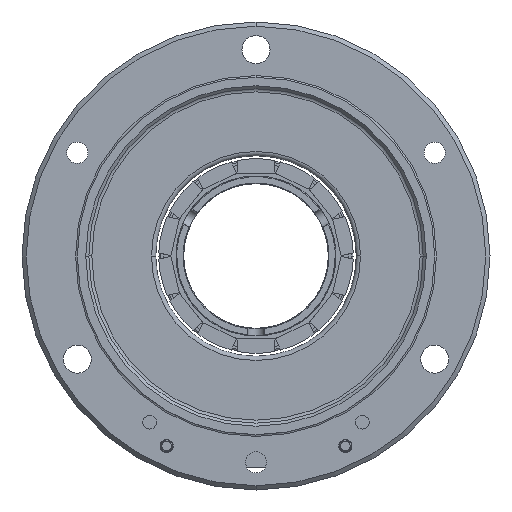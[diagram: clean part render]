
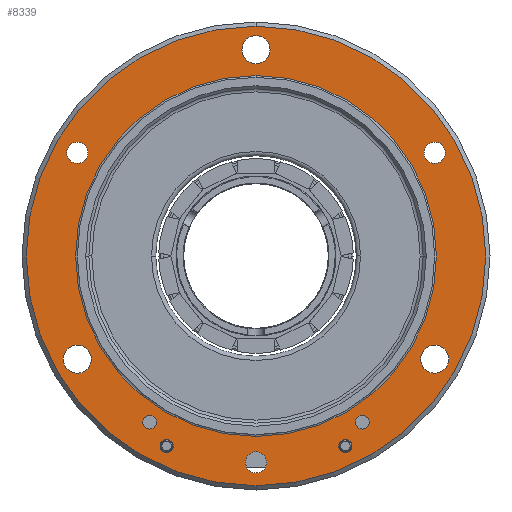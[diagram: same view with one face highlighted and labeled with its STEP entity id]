
A CAD part, left-side view. The second image highlights one B-rep face of the part: STEP entity #8339.
In plain terms, the highlighted planar face has unit normal (-1, 0, 0) as drawn and (0, 1, 0) by its records, which use the part's own axes.
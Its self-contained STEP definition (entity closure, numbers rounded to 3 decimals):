
#1498=CARTESIAN_POINT('',(-24.25,4.,0.));
#1499=DIRECTION('',(0.,-1.,0.));
#1500=DIRECTION('',(-1.,0.,0.));
#1501=AXIS2_PLACEMENT_3D('',#1498,#1499,#1500);
#1506=CARTESIAN_POINT('',(-24.25,4.,0.));
#1507=DIRECTION('',(0.,-1.,0.));
#1508=DIRECTION('',(1.,0.,0.));
#1509=AXIS2_PLACEMENT_3D('',#1506,#1507,#1508);
#1514=CARTESIAN_POINT('',(12.125,4.,21.001));
#1515=DIRECTION('',(0.,-1.,0.));
#1516=DIRECTION('',(0.5,0.,0.866));
#1517=AXIS2_PLACEMENT_3D('',#1514,#1515,#1516);
#1522=CARTESIAN_POINT('',(12.125,4.,21.001));
#1523=DIRECTION('',(0.,-1.,0.));
#1524=DIRECTION('',(-0.5,0.,-0.866));
#1525=AXIS2_PLACEMENT_3D('',#1522,#1523,#1524);
#1530=CARTESIAN_POINT('',(12.125,4.,-21.001));
#1531=DIRECTION('',(0.,-1.,0.));
#1532=DIRECTION('',(0.5,0.,-0.866));
#1533=AXIS2_PLACEMENT_3D('',#1530,#1531,#1532);
#1538=CARTESIAN_POINT('',(12.125,4.,-21.001));
#1539=DIRECTION('',(0.,-1.,0.));
#1540=DIRECTION('',(-0.5,0.,0.866));
#1541=AXIS2_PLACEMENT_3D('',#1538,#1539,#1540);
#1546=CARTESIAN_POINT('',(-12.125,4.,21.001));
#1547=DIRECTION('',(0.,1.,0.));
#1548=DIRECTION('',(-1.,0.,0.));
#1549=AXIS2_PLACEMENT_3D('',#1546,#1547,#1548);
#1554=CARTESIAN_POINT('',(-12.125,4.,21.001));
#1555=DIRECTION('',(0.,1.,0.));
#1556=DIRECTION('',(1.,0.,0.));
#1557=AXIS2_PLACEMENT_3D('',#1554,#1555,#1556);
#1562=CARTESIAN_POINT('',(24.25,4.,0.));
#1563=DIRECTION('',(0.,1.,0.));
#1564=DIRECTION('',(0.5,0.,0.866));
#1565=AXIS2_PLACEMENT_3D('',#1562,#1563,#1564);
#1570=CARTESIAN_POINT('',(24.25,4.,0.));
#1571=DIRECTION('',(0.,1.,0.));
#1572=DIRECTION('',(-0.5,0.,-0.866));
#1573=AXIS2_PLACEMENT_3D('',#1570,#1571,#1572);
#1578=CARTESIAN_POINT('',(-12.125,4.,-21.001));
#1579=DIRECTION('',(0.,1.,0.));
#1580=DIRECTION('',(0.5,0.,-0.866));
#1581=AXIS2_PLACEMENT_3D('',#1578,#1579,#1580);
#1586=CARTESIAN_POINT('',(-12.125,4.,-21.001));
#1587=DIRECTION('',(0.,1.,0.));
#1588=DIRECTION('',(-0.5,0.,0.866));
#1589=AXIS2_PLACEMENT_3D('',#1586,#1587,#1588);
#1594=CARTESIAN_POINT('',(0.,4.,0.));
#1595=DIRECTION('',(0.,-1.,0.));
#1596=DIRECTION('',(1.,0.,0.));
#1597=AXIS2_PLACEMENT_3D('',#1594,#1595,#1596);
#1602=CARTESIAN_POINT('',(0.,4.,0.));
#1603=DIRECTION('',(0.,-1.,0.));
#1604=DIRECTION('',(-1.,0.,0.));
#1605=AXIS2_PLACEMENT_3D('',#1602,#1603,#1604);
#1610=CARTESIAN_POINT('',(-22.34,4.,-10.5));
#1611=DIRECTION('',(0.,-1.,0.));
#1612=DIRECTION('',(-1.,0.,0.));
#1613=AXIS2_PLACEMENT_3D('',#1610,#1611,#1612);
#1618=CARTESIAN_POINT('',(-22.34,4.,-10.5));
#1619=DIRECTION('',(0.,-1.,0.));
#1620=DIRECTION('',(1.,0.,0.));
#1621=AXIS2_PLACEMENT_3D('',#1618,#1619,#1620);
#1626=CARTESIAN_POINT('',(-22.34,4.,10.5));
#1627=DIRECTION('',(0.,1.,0.));
#1628=DIRECTION('',(-1.,0.,0.));
#1629=AXIS2_PLACEMENT_3D('',#1626,#1627,#1628);
#1634=CARTESIAN_POINT('',(-22.34,4.,10.5));
#1635=DIRECTION('',(0.,1.,0.));
#1636=DIRECTION('',(1.,0.,0.));
#1637=AXIS2_PLACEMENT_3D('',#1634,#1635,#1636);
#1642=CARTESIAN_POINT('',(-19.54,4.,-12.5));
#1643=DIRECTION('',(0.,-1.,0.));
#1644=DIRECTION('',(-1.,0.,0.));
#1645=AXIS2_PLACEMENT_3D('',#1642,#1643,#1644);
#1650=CARTESIAN_POINT('',(-19.54,4.,-12.5));
#1651=DIRECTION('',(0.,-1.,0.));
#1652=DIRECTION('',(1.,0.,0.));
#1653=AXIS2_PLACEMENT_3D('',#1650,#1651,#1652);
#1658=CARTESIAN_POINT('',(-19.54,4.,12.5));
#1659=DIRECTION('',(0.,-1.,0.));
#1660=DIRECTION('',(-1.,0.,0.));
#1661=AXIS2_PLACEMENT_3D('',#1658,#1659,#1660);
#1666=CARTESIAN_POINT('',(-19.54,4.,12.5));
#1667=DIRECTION('',(0.,-1.,0.));
#1668=DIRECTION('',(1.,0.,0.));
#1669=AXIS2_PLACEMENT_3D('',#1666,#1667,#1668);
#1674=CARTESIAN_POINT('',(0.,4.,0.));
#1675=DIRECTION('',(0.,1.,0.));
#1676=DIRECTION('',(-1.,0.,0.));
#1677=AXIS2_PLACEMENT_3D('',#1674,#1675,#1676);
#1682=CARTESIAN_POINT('',(0.,4.,0.));
#1683=DIRECTION('',(0.,1.,0.));
#1684=DIRECTION('',(1.,0.,0.));
#1685=AXIS2_PLACEMENT_3D('',#1682,#1683,#1684);
#1932=CARTESIAN_POINT('',(-25.5,4.,0.));
#1933=CARTESIAN_POINT('',(-23.,4.,0.));
#1934=VERTEX_POINT('',#1932);
#1935=VERTEX_POINT('',#1933);
#1936=CARTESIAN_POINT('',(12.75,4.,22.084));
#1938=VERTEX_POINT('',#1936);
#1940=CARTESIAN_POINT('',(11.5,4.,19.919));
#1942=VERTEX_POINT('',#1940);
#1944=CARTESIAN_POINT('',(12.75,4.,-22.084));
#1946=VERTEX_POINT('',#1944);
#1948=CARTESIAN_POINT('',(11.5,4.,-19.919));
#1950=VERTEX_POINT('',#1948);
#1956=CARTESIAN_POINT('',(-13.775,4.,21.001));
#1957=CARTESIAN_POINT('',(-10.475,4.,21.001));
#1958=VERTEX_POINT('',#1956);
#1959=VERTEX_POINT('',#1957);
#1988=CARTESIAN_POINT('',(27.,4.,0.));
#1989=CARTESIAN_POINT('',(-27.,4.,0.));
#1990=VERTEX_POINT('',#1988);
#1991=VERTEX_POINT('',#1989);
#2010=CARTESIAN_POINT('',(-23.115,4.,-10.5));
#2011=VERTEX_POINT('',#2010);
#2012=CARTESIAN_POINT('',(-21.565,4.,-10.5));
#2013=VERTEX_POINT('',#2012);
#2018=CARTESIAN_POINT('',(-23.115,4.,10.5));
#2019=VERTEX_POINT('',#2018);
#2020=CARTESIAN_POINT('',(-21.565,4.,10.5));
#2021=VERTEX_POINT('',#2020);
#2026=CARTESIAN_POINT('',(-20.34,4.,-12.5));
#2027=CARTESIAN_POINT('',(-18.74,4.,-12.5));
#2028=VERTEX_POINT('',#2026);
#2029=VERTEX_POINT('',#2027);
#2034=CARTESIAN_POINT('',(-20.34,4.,12.5));
#2035=CARTESIAN_POINT('',(-18.74,4.,12.5));
#2036=VERTEX_POINT('',#2034);
#2037=VERTEX_POINT('',#2035);
#2079=CARTESIAN_POINT('',(25.075,4.,1.429));
#2080=CARTESIAN_POINT('',(23.425,4.,-1.429));
#2081=VERTEX_POINT('',#2079);
#2082=VERTEX_POINT('',#2080);
#2087=CARTESIAN_POINT('',(-11.3,4.,-22.43));
#2088=CARTESIAN_POINT('',(-12.95,4.,-19.572));
#2089=VERTEX_POINT('',#2087);
#2090=VERTEX_POINT('',#2088);
#2091=CARTESIAN_POINT('',(-21.2,4.,0.));
#2092=CARTESIAN_POINT('',(21.2,4.,0.));
#2093=VERTEX_POINT('',#2091);
#2094=VERTEX_POINT('',#2092);
#8263=CARTESIAN_POINT('',(0.,4.,0.));
#8264=DIRECTION('',(0.,-1.,0.));
#8265=DIRECTION('',(-1.,0.,0.));
#8266=AXIS2_PLACEMENT_3D('',#8263,#8264,#8265);
#8267=PLANE('',#8266);
#8269=ORIENTED_EDGE('',*,*,#8268,.T.);
#8271=ORIENTED_EDGE('',*,*,#8270,.T.);
#8272=EDGE_LOOP('',(#8269,#8271));
#8273=FACE_OUTER_BOUND('',#8272,.F.);
#8275=ORIENTED_EDGE('',*,*,#8274,.F.);
#8277=ORIENTED_EDGE('',*,*,#8276,.F.);
#8278=EDGE_LOOP('',(#8275,#8277));
#8279=FACE_BOUND('',#8278,.F.);
#8281=ORIENTED_EDGE('',*,*,#8280,.F.);
#8283=ORIENTED_EDGE('',*,*,#8282,.F.);
#8284=EDGE_LOOP('',(#8281,#8283));
#8285=FACE_BOUND('',#8284,.F.);
#8287=ORIENTED_EDGE('',*,*,#8286,.T.);
#8289=ORIENTED_EDGE('',*,*,#8288,.T.);
#8290=EDGE_LOOP('',(#8287,#8289));
#8291=FACE_BOUND('',#8290,.F.);
#8293=ORIENTED_EDGE('',*,*,#8292,.T.);
#8295=ORIENTED_EDGE('',*,*,#8294,.T.);
#8296=EDGE_LOOP('',(#8293,#8295));
#8297=FACE_BOUND('',#8296,.F.);
#8299=ORIENTED_EDGE('',*,*,#8298,.T.);
#8301=ORIENTED_EDGE('',*,*,#8300,.T.);
#8302=EDGE_LOOP('',(#8299,#8301));
#8303=FACE_BOUND('',#8302,.F.);
#8305=ORIENTED_EDGE('',*,*,#8304,.F.);
#8307=ORIENTED_EDGE('',*,*,#8306,.F.);
#8308=EDGE_LOOP('',(#8305,#8307));
#8309=FACE_BOUND('',#8308,.F.);
#8311=ORIENTED_EDGE('',*,*,#8310,.F.);
#8313=ORIENTED_EDGE('',*,*,#8312,.F.);
#8314=EDGE_LOOP('',(#8311,#8313));
#8315=FACE_BOUND('',#8314,.F.);
#8317=ORIENTED_EDGE('',*,*,#8316,.T.);
#8319=ORIENTED_EDGE('',*,*,#8318,.T.);
#8320=EDGE_LOOP('',(#8317,#8319));
#8321=FACE_BOUND('',#8320,.F.);
#8323=ORIENTED_EDGE('',*,*,#8322,.F.);
#8325=ORIENTED_EDGE('',*,*,#8324,.F.);
#8326=EDGE_LOOP('',(#8323,#8325));
#8327=FACE_BOUND('',#8326,.F.);
#8329=ORIENTED_EDGE('',*,*,#8328,.F.);
#8331=ORIENTED_EDGE('',*,*,#8330,.F.);
#8332=EDGE_LOOP('',(#8329,#8331));
#8333=FACE_BOUND('',#8332,.F.);
#8334=ORIENTED_EDGE('',*,*,#8253,.T.);
#8336=ORIENTED_EDGE('',*,*,#8335,.T.);
#8337=EDGE_LOOP('',(#8334,#8336));
#8338=FACE_BOUND('',#8337,.F.);
#8339=ADVANCED_FACE('',(#8273,#8279,#8285,#8291,#8297,#8303,#8309,#8315,#8321,
#8327,#8333,#8338),#8267,.F.);
#1502=CIRCLE('',#1501,1.25);
#1510=CIRCLE('',#1509,1.25);
#1518=CIRCLE('',#1517,1.25);
#1526=CIRCLE('',#1525,1.25);
#1534=CIRCLE('',#1533,1.25);
#1542=CIRCLE('',#1541,1.25);
#1550=CIRCLE('',#1549,1.65);
#1558=CIRCLE('',#1557,1.65);
#1566=CIRCLE('',#1565,1.65);
#1574=CIRCLE('',#1573,1.65);
#1582=CIRCLE('',#1581,1.65);
#1590=CIRCLE('',#1589,1.65);
#1598=CIRCLE('',#1597,27.);
#1606=CIRCLE('',#1605,27.);
#1614=CIRCLE('',#1613,0.775);
#1622=CIRCLE('',#1621,0.775);
#1630=CIRCLE('',#1629,0.775);
#1638=CIRCLE('',#1637,0.775);
#1646=CIRCLE('',#1645,0.8);
#1654=CIRCLE('',#1653,0.8);
#1662=CIRCLE('',#1661,0.8);
#1670=CIRCLE('',#1669,0.8);
#1678=CIRCLE('',#1677,21.2);
#1686=CIRCLE('',#1685,21.2);
#8253=EDGE_CURVE('',#2093,#2094,#1678,.T.);
#8268=EDGE_CURVE('',#1990,#1991,#1598,.T.);
#8270=EDGE_CURVE('',#1991,#1990,#1606,.T.);
#8274=EDGE_CURVE('',#1938,#1942,#1518,.T.);
#8276=EDGE_CURVE('',#1942,#1938,#1526,.T.);
#8280=EDGE_CURVE('',#1946,#1950,#1534,.T.);
#8282=EDGE_CURVE('',#1950,#1946,#1542,.T.);
#8286=EDGE_CURVE('',#1958,#1959,#1550,.T.);
#8288=EDGE_CURVE('',#1959,#1958,#1558,.T.);
#8292=EDGE_CURVE('',#2081,#2082,#1566,.T.);
#8294=EDGE_CURVE('',#2082,#2081,#1574,.T.);
#8298=EDGE_CURVE('',#2089,#2090,#1582,.T.);
#8300=EDGE_CURVE('',#2090,#2089,#1590,.T.);
#8304=EDGE_CURVE('',#1934,#1935,#1502,.T.);
#8306=EDGE_CURVE('',#1935,#1934,#1510,.T.);
#8310=EDGE_CURVE('',#2011,#2013,#1614,.T.);
#8312=EDGE_CURVE('',#2013,#2011,#1622,.T.);
#8316=EDGE_CURVE('',#2019,#2021,#1630,.T.);
#8318=EDGE_CURVE('',#2021,#2019,#1638,.T.);
#8322=EDGE_CURVE('',#2028,#2029,#1646,.T.);
#8324=EDGE_CURVE('',#2029,#2028,#1654,.T.);
#8328=EDGE_CURVE('',#2036,#2037,#1662,.T.);
#8330=EDGE_CURVE('',#2037,#2036,#1670,.T.);
#8335=EDGE_CURVE('',#2094,#2093,#1686,.T.);
